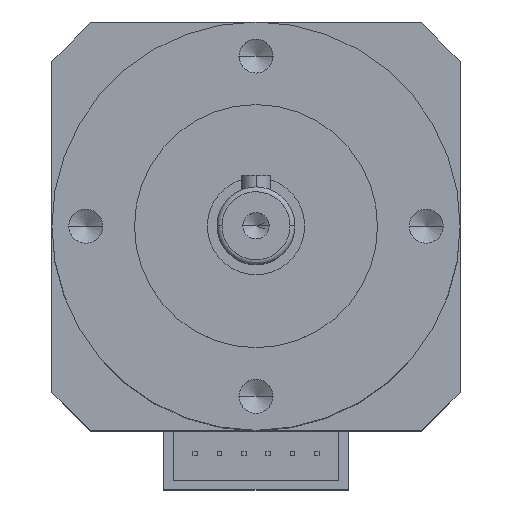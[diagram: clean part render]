
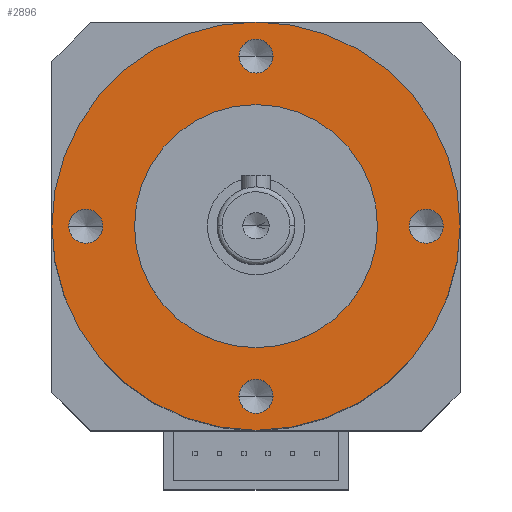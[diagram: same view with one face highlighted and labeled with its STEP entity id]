
A CAD part, top view. The second image highlights one B-rep face of the part: STEP entity #2896.
In plain terms, the highlighted planar face has unit normal (0, 0, 1).
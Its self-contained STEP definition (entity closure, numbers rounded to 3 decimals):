
#44 = DIRECTION ( 'NONE',  ( 0., 0., 1. ) ) ;
#86 = CARTESIAN_POINT ( 'NONE',  ( 0., 17.5, 0. ) ) ;
#88 = CARTESIAN_POINT ( 'NONE',  ( -17.5, 0., 0. ) ) ;
#125 = EDGE_CURVE ( 'NONE', #1765, #1381, #1216, .T. ) ;
#134 = DIRECTION ( 'NONE',  ( 0., 0., 1. ) ) ;
#145 = VERTEX_POINT ( 'NONE', #575 ) ;
#148 = CARTESIAN_POINT ( 'NONE',  ( 0., -17.5, 0. ) ) ;
#220 = VERTEX_POINT ( 'NONE', #599 ) ;
#263 = EDGE_CURVE ( 'NONE', #1199, #145, #2262, .T. ) ;
#322 = FACE_BOUND ( 'NONE', #948, .T. ) ;
#350 = AXIS2_PLACEMENT_3D ( 'NONE', #1537, #2338, #433 ) ;
#400 = FACE_BOUND ( 'NONE', #2826, .T. ) ;
#406 = DIRECTION ( 'NONE',  ( -1., 0., 0. ) ) ;
#417 = CIRCLE ( 'NONE', #2912, 1.75 ) ;
#419 = CARTESIAN_POINT ( 'NONE',  ( 15.75, 0., 0. ) ) ;
#433 = DIRECTION ( 'NONE',  ( -1., 0., 0. ) ) ;
#489 = CIRCLE ( 'NONE', #2584, 1.75 ) ;
#529 = VERTEX_POINT ( 'NONE', #2527 ) ;
#561 = DIRECTION ( 'NONE',  ( -1., 0., 0. ) ) ;
#575 = CARTESIAN_POINT ( 'NONE',  ( 1.75, 17.5, 0. ) ) ;
#599 = CARTESIAN_POINT ( 'NONE',  ( 19.25, 0., 0. ) ) ;
#653 = EDGE_CURVE ( 'NONE', #220, #1038, #3230, .T. ) ;
#740 = CARTESIAN_POINT ( 'NONE',  ( -21., -21., 0. ) ) ;
#772 = EDGE_CURVE ( 'NONE', #1038, #220, #2660, .T. ) ;
#782 = FACE_BOUND ( 'NONE', #3242, .T. ) ;
#845 = DIRECTION ( 'NONE',  ( -1., 0., 0. ) ) ;
#948 = EDGE_LOOP ( 'NONE', ( #1171, #1328 ) ) ;
#1009 = DIRECTION ( 'NONE',  ( 0., 0., 1. ) ) ;
#1014 = CIRCLE ( 'NONE', #3379, 1.75 ) ;
#1036 = DIRECTION ( 'NONE',  ( -1., 0., 0. ) ) ;
#1038 = VERTEX_POINT ( 'NONE', #419 ) ;
#1041 = DIRECTION ( 'NONE',  ( -1., 0., 0. ) ) ;
#1042 = VERTEX_POINT ( 'NONE', #2044 ) ;
#1057 = AXIS2_PLACEMENT_3D ( 'NONE', #1395, #1612, #845 ) ;
#1127 = EDGE_LOOP ( 'NONE', ( #3365, #1832 ) ) ;
#1171 = ORIENTED_EDGE ( 'NONE', *, *, #1525, .F. ) ;
#1182 = CARTESIAN_POINT ( 'NONE',  ( -21., 0., 0. ) ) ;
#1199 = VERTEX_POINT ( 'NONE', #2077 ) ;
#1216 = CIRCLE ( 'NONE', #1057, 21. ) ;
#1238 = ORIENTED_EDGE ( 'NONE', *, *, #125, .T. ) ;
#1239 = AXIS2_PLACEMENT_3D ( 'NONE', #86, #44, #2759 ) ;
#1259 = DIRECTION ( 'NONE',  ( -1., 0., 0. ) ) ;
#1289 = FACE_BOUND ( 'NONE', #1127, .T. ) ;
#1328 = ORIENTED_EDGE ( 'NONE', *, *, #3293, .F. ) ;
#1335 = EDGE_CURVE ( 'NONE', #529, #2056, #1014, .T. ) ;
#1344 = CARTESIAN_POINT ( 'NONE',  ( 0., 0., 0. ) ) ;
#1350 = EDGE_CURVE ( 'NONE', #145, #1199, #2749, .T. ) ;
#1381 = VERTEX_POINT ( 'NONE', #1182 ) ;
#1395 = CARTESIAN_POINT ( 'NONE',  ( 0., 0., 0. ) ) ;
#1465 = EDGE_LOOP ( 'NONE', ( #1238, #2956 ) ) ;
#1503 = AXIS2_PLACEMENT_3D ( 'NONE', #1762, #2034, #1739 ) ;
#1525 = EDGE_CURVE ( 'NONE', #1042, #2386, #2898, .T. ) ;
#1534 = CARTESIAN_POINT ( 'NONE',  ( -17.5, 0., 0. ) ) ;
#1537 = CARTESIAN_POINT ( 'NONE',  ( 0., 0., 0. ) ) ;
#1553 = CIRCLE ( 'NONE', #2558, 1.75 ) ;
#1570 = DIRECTION ( 'NONE',  ( -1., 0., 0. ) ) ;
#1578 = DIRECTION ( 'NONE',  ( 0., 0., 1. ) ) ;
#1593 = ORIENTED_EDGE ( 'NONE', *, *, #653, .F. ) ;
#1612 = DIRECTION ( 'NONE',  ( 0., 0., 1. ) ) ;
#1614 = CARTESIAN_POINT ( 'NONE',  ( 12.5, 0., 0. ) ) ;
#1670 = EDGE_LOOP ( 'NONE', ( #2535, #2078 ) ) ;
#1725 = CIRCLE ( 'NONE', #2358, 21. ) ;
#1735 = DIRECTION ( 'NONE',  ( 0., 0., 1. ) ) ;
#1739 = DIRECTION ( 'NONE',  ( -1., 0., 0. ) ) ;
#1762 = CARTESIAN_POINT ( 'NONE',  ( 0., 17.5, 0. ) ) ;
#1765 = VERTEX_POINT ( 'NONE', #1777 ) ;
#1777 = CARTESIAN_POINT ( 'NONE',  ( 21., 0., 0. ) ) ;
#1832 = ORIENTED_EDGE ( 'NONE', *, *, #1925, .F. ) ;
#1837 = CARTESIAN_POINT ( 'NONE',  ( 17.5, 0., 0. ) ) ;
#1925 = EDGE_CURVE ( 'NONE', #2166, #2727, #417, .T. ) ;
#1998 = DIRECTION ( 'NONE',  ( -1., 0., 0. ) ) ;
#2012 = FACE_OUTER_BOUND ( 'NONE', #1465, .T. ) ;
#2034 = DIRECTION ( 'NONE',  ( 0., 0., 1. ) ) ;
#2044 = CARTESIAN_POINT ( 'NONE',  ( -12.5, 0., 0. ) ) ;
#2056 = VERTEX_POINT ( 'NONE', #2719 ) ;
#2068 = DIRECTION ( 'NONE',  ( 0., 0., 1. ) ) ;
#2072 = PLANE ( 'NONE',  #3277 ) ;
#2077 = CARTESIAN_POINT ( 'NONE',  ( -1.75, 17.5, 0. ) ) ;
#2078 = ORIENTED_EDGE ( 'NONE', *, *, #1350, .F. ) ;
#2166 = VERTEX_POINT ( 'NONE', #3046 ) ;
#2226 = AXIS2_PLACEMENT_3D ( 'NONE', #1837, #1578, #1041 ) ;
#2238 = EDGE_CURVE ( 'NONE', #2727, #2166, #1553, .T. ) ;
#2262 = CIRCLE ( 'NONE', #1239, 1.75 ) ;
#2338 = DIRECTION ( 'NONE',  ( 0., 0., 1. ) ) ;
#2358 = AXIS2_PLACEMENT_3D ( 'NONE', #1344, #2649, #1036 ) ;
#2386 = VERTEX_POINT ( 'NONE', #1614 ) ;
#2420 = AXIS2_PLACEMENT_3D ( 'NONE', #2845, #2068, #1259 ) ;
#2453 = EDGE_CURVE ( 'NONE', #1381, #1765, #1725, .T. ) ;
#2503 = AXIS2_PLACEMENT_3D ( 'NONE', #2827, #2803, #406 ) ;
#2527 = CARTESIAN_POINT ( 'NONE',  ( -1.75, -17.5, 0. ) ) ;
#2535 = ORIENTED_EDGE ( 'NONE', *, *, #263, .F. ) ;
#2558 = AXIS2_PLACEMENT_3D ( 'NONE', #88, #1735, #3073 ) ;
#2584 = AXIS2_PLACEMENT_3D ( 'NONE', #3166, #2857, #2907 ) ;
#2639 = ORIENTED_EDGE ( 'NONE', *, *, #2832, .F. ) ;
#2649 = DIRECTION ( 'NONE',  ( 0., 0., 1. ) ) ;
#2660 = CIRCLE ( 'NONE', #2226, 1.75 ) ;
#2719 = CARTESIAN_POINT ( 'NONE',  ( 1.75, -17.5, 0. ) ) ;
#2727 = VERTEX_POINT ( 'NONE', #3396 ) ;
#2749 = CIRCLE ( 'NONE', #1503, 1.75 ) ;
#2759 = DIRECTION ( 'NONE',  ( -1., 0., 0. ) ) ;
#2771 = ORIENTED_EDGE ( 'NONE', *, *, #1335, .F. ) ;
#2803 = DIRECTION ( 'NONE',  ( 0., 0., 1. ) ) ;
#2826 = EDGE_LOOP ( 'NONE', ( #2771, #2639 ) ) ;
#2827 = CARTESIAN_POINT ( 'NONE',  ( 17.5, 0., 0. ) ) ;
#2832 = EDGE_CURVE ( 'NONE', #2056, #529, #489, .T. ) ;
#2845 = CARTESIAN_POINT ( 'NONE',  ( 0., 0., 0. ) ) ;
#2857 = DIRECTION ( 'NONE',  ( 0., 0., 1. ) ) ;
#2896 = ADVANCED_FACE ( 'NONE', ( #400, #782, #3192, #1289, #322, #2012 ), #2072, .F. ) ;
#2898 = CIRCLE ( 'NONE', #350, 12.5 ) ;
#2907 = DIRECTION ( 'NONE',  ( -1., 0., 0. ) ) ;
#2912 = AXIS2_PLACEMENT_3D ( 'NONE', #1534, #1009, #1570 ) ;
#2956 = ORIENTED_EDGE ( 'NONE', *, *, #2453, .T. ) ;
#3046 = CARTESIAN_POINT ( 'NONE',  ( -15.75, 0., 0. ) ) ;
#3073 = DIRECTION ( 'NONE',  ( -1., 0., 0. ) ) ;
#3116 = CIRCLE ( 'NONE', #2420, 12.5 ) ;
#3149 = ORIENTED_EDGE ( 'NONE', *, *, #772, .F. ) ;
#3166 = CARTESIAN_POINT ( 'NONE',  ( 0., -17.5, 0. ) ) ;
#3192 = FACE_BOUND ( 'NONE', #1670, .T. ) ;
#3230 = CIRCLE ( 'NONE', #2503, 1.75 ) ;
#3242 = EDGE_LOOP ( 'NONE', ( #3149, #1593 ) ) ;
#3277 = AXIS2_PLACEMENT_3D ( 'NONE', #740, #3432, #561 ) ;
#3293 = EDGE_CURVE ( 'NONE', #2386, #1042, #3116, .T. ) ;
#3365 = ORIENTED_EDGE ( 'NONE', *, *, #2238, .F. ) ;
#3379 = AXIS2_PLACEMENT_3D ( 'NONE', #148, #134, #1998 ) ;
#3396 = CARTESIAN_POINT ( 'NONE',  ( -19.25, 0., 0. ) ) ;
#3432 = DIRECTION ( 'NONE',  ( 0., 0., -1. ) ) ;
